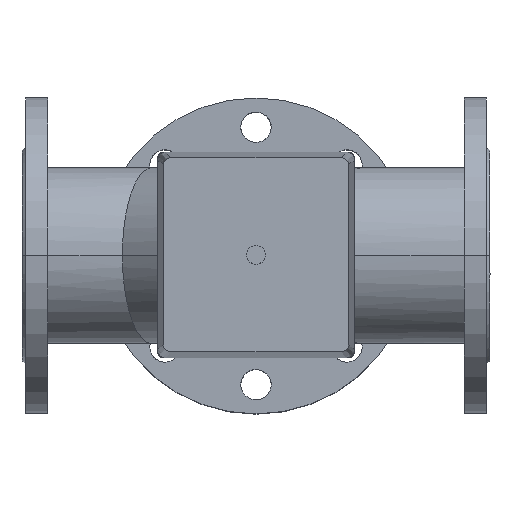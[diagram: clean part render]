
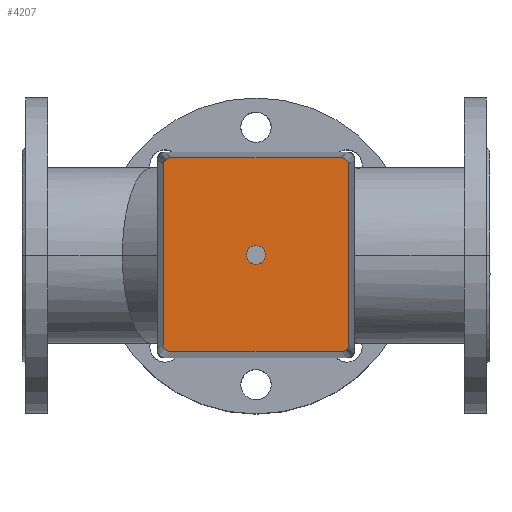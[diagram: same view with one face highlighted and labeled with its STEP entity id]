
A CAD part, top view. The second image highlights one B-rep face of the part: STEP entity #4207.
In plain terms, the highlighted planar face has unit normal (0, 0, 1).
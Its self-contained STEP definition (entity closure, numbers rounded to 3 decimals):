
#336=LINE('',#7272,#568);
#337=LINE('',#7276,#569);
#338=LINE('',#7280,#570);
#339=LINE('',#7284,#571);
#568=VECTOR('',#5907,304.8);
#569=VECTOR('',#5910,304.8);
#570=VECTOR('',#5913,304.8);
#571=VECTOR('',#5916,304.8);
#1035=FACE_OUTER_BOUND('',#1346,.T.);
#1346=EDGE_LOOP('',(#3488,#3489,#3490,#3491,#3492,#3493,#3494,#3495));
#1658=CIRCLE('',#4721,6.);
#1659=CIRCLE('',#4722,6.);
#1660=CIRCLE('',#4723,6.);
#1661=CIRCLE('',#4724,6.);
#2013=VERTEX_POINT('',#7270);
#2014=VERTEX_POINT('',#7271);
#2015=VERTEX_POINT('',#7273);
#2016=VERTEX_POINT('',#7275);
#2017=VERTEX_POINT('',#7277);
#2018=VERTEX_POINT('',#7279);
#2019=VERTEX_POINT('',#7281);
#2020=VERTEX_POINT('',#7283);
#2519=EDGE_CURVE('',#2013,#2014,#336,.T.);
#2520=EDGE_CURVE('',#2014,#2015,#1658,.T.);
#2521=EDGE_CURVE('',#2015,#2016,#337,.T.);
#2522=EDGE_CURVE('',#2016,#2017,#1659,.T.);
#2523=EDGE_CURVE('',#2017,#2018,#338,.T.);
#2524=EDGE_CURVE('',#2018,#2019,#1660,.T.);
#2525=EDGE_CURVE('',#2019,#2020,#339,.T.);
#2526=EDGE_CURVE('',#2020,#2013,#1661,.T.);
#3488=ORIENTED_EDGE('',*,*,#2519,.T.);
#3489=ORIENTED_EDGE('',*,*,#2520,.T.);
#3490=ORIENTED_EDGE('',*,*,#2521,.T.);
#3491=ORIENTED_EDGE('',*,*,#2522,.T.);
#3492=ORIENTED_EDGE('',*,*,#2523,.T.);
#3493=ORIENTED_EDGE('',*,*,#2524,.T.);
#3494=ORIENTED_EDGE('',*,*,#2525,.T.);
#3495=ORIENTED_EDGE('',*,*,#2526,.T.);
#3791=PLANE('',#4720);
#4207=ADVANCED_FACE('',(#1035),#3791,.T.);
#4720=AXIS2_PLACEMENT_3D('',#7269,#5905,#5906);
#4721=AXIS2_PLACEMENT_3D('',#7274,#5908,#5909);
#4722=AXIS2_PLACEMENT_3D('',#7278,#5911,#5912);
#4723=AXIS2_PLACEMENT_3D('',#7282,#5914,#5915);
#4724=AXIS2_PLACEMENT_3D('',#7285,#5917,#5918);
#5905=DIRECTION('center_axis',(0.,0.,1.));
#5906=DIRECTION('ref_axis',(0.,-1.,0.));
#5907=DIRECTION('',(0.,-1.,0.));
#5908=DIRECTION('center_axis',(0.,0.,1.));
#5909=DIRECTION('ref_axis',(1.,0.,0.));
#5910=DIRECTION('',(1.,0.,0.));
#5911=DIRECTION('center_axis',(0.,0.,1.));
#5912=DIRECTION('ref_axis',(1.,0.,0.));
#5913=DIRECTION('',(0.,1.,0.));
#5914=DIRECTION('center_axis',(0.,0.,1.));
#5915=DIRECTION('ref_axis',(1.,0.,0.));
#5916=DIRECTION('',(-1.,0.,0.));
#5917=DIRECTION('center_axis',(0.,0.,1.));
#5918=DIRECTION('ref_axis',(1.,0.,0.));
#7269=CARTESIAN_POINT('Origin',(0.,0.,
279.));
#7270=CARTESIAN_POINT('',(-83.,73.,279.));
#7271=CARTESIAN_POINT('',(-83.,-73.,279.));
#7272=CARTESIAN_POINT('',(-83.,-73.,279.));
#7273=CARTESIAN_POINT('',(-77.,-79.,279.));
#7274=CARTESIAN_POINT('Origin',(-77.,-73.,279.));
#7275=CARTESIAN_POINT('',(77.,-79.,279.));
#7276=CARTESIAN_POINT('',(77.,-79.,279.));
#7277=CARTESIAN_POINT('',(83.,-73.,279.));
#7278=CARTESIAN_POINT('Origin',(77.,-73.,279.));
#7279=CARTESIAN_POINT('',(83.,73.,279.));
#7280=CARTESIAN_POINT('',(83.,73.,279.));
#7281=CARTESIAN_POINT('',(77.,79.,279.));
#7282=CARTESIAN_POINT('Origin',(77.,73.,279.));
#7283=CARTESIAN_POINT('',(-77.,79.,279.));
#7284=CARTESIAN_POINT('',(-77.,79.,279.));
#7285=CARTESIAN_POINT('Origin',(-77.,73.,279.));
